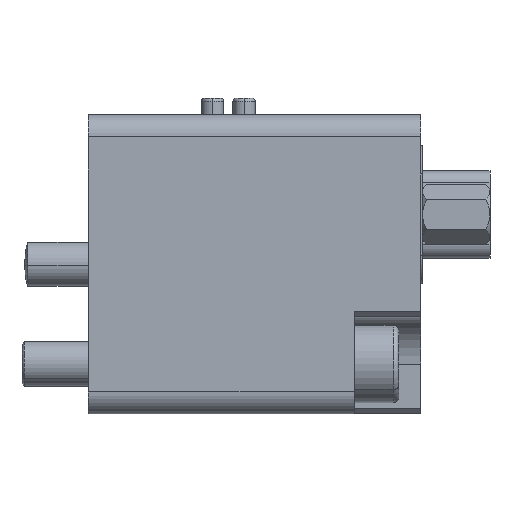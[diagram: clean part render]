
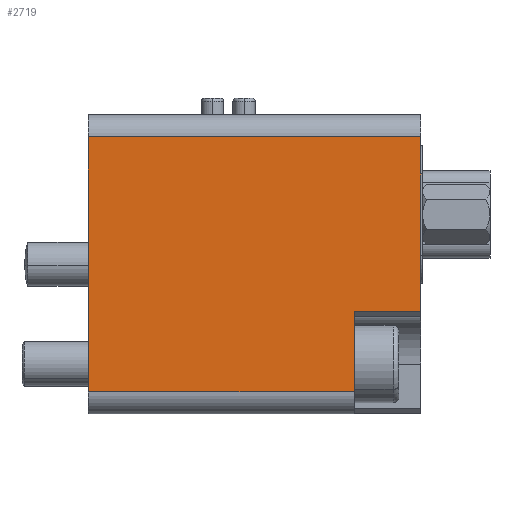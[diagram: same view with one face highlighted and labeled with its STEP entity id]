
A CAD part, left-side view. The second image highlights one B-rep face of the part: STEP entity #2719.
In plain terms, the highlighted planar face has unit normal (-1, 0, 0).
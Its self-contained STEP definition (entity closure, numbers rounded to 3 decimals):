
#139 = ORIENTED_EDGE ( 'NONE', *, *, #3262, .T. ) ;
#209 = DIRECTION ( 'NONE',  ( 0., -1., 0. ) ) ;
#221 = CARTESIAN_POINT ( 'NONE',  ( -30., 15., -3.5 ) ) ;
#458 = DIRECTION ( 'NONE',  ( 0., -1., 0. ) ) ;
#502 = CARTESIAN_POINT ( 'NONE',  ( -30., -9., -19.25 ) ) ;
#657 = CARTESIAN_POINT ( 'NONE',  ( -30., 15., -28.5 ) ) ;
#677 = CARTESIAN_POINT ( 'NONE',  ( -30., -15., -19.25 ) ) ;
#1598 = EDGE_CURVE ( 'NONE', #2379, #9841, #10974, .T. ) ;
#1863 = LINE ( 'NONE', #7122, #12011 ) ;
#2379 = VERTEX_POINT ( 'NONE', #502 ) ;
#2460 = LINE ( 'NONE', #8546, #12628 ) ;
#2719 = ADVANCED_FACE ( 'NONE', ( #10016 ), #4080, .T. ) ;
#3262 = EDGE_CURVE ( 'NONE', #10940, #12384, #2460, .T. ) ;
#3281 = EDGE_CURVE ( 'NONE', #9841, #5863, #1863, .T. ) ;
#3490 = CARTESIAN_POINT ( 'NONE',  ( -30., -9., -19.75 ) ) ;
#3629 = CARTESIAN_POINT ( 'NONE',  ( -30., 8., -3.5 ) ) ;
#4080 = PLANE ( 'NONE',  #9042 ) ;
#4156 = VECTOR ( 'NONE', #4515, 1000. ) ;
#4448 = DIRECTION ( 'NONE',  ( 0., 0., -1. ) ) ;
#4515 = DIRECTION ( 'NONE',  ( 0., 0., 1. ) ) ;
#4529 = CARTESIAN_POINT ( 'NONE',  ( -30., 8., -17. ) ) ;
#5650 = ORIENTED_EDGE ( 'NONE', *, *, #9299, .F. ) ;
#5863 = VERTEX_POINT ( 'NONE', #8385 ) ;
#5918 = VECTOR ( 'NONE', #4448, 1000. ) ;
#7122 = CARTESIAN_POINT ( 'NONE',  ( -30., -15., -17. ) ) ;
#7198 = VECTOR ( 'NONE', #9579, 1000. ) ;
#7332 = EDGE_CURVE ( 'NONE', #5863, #9908, #10445, .T. ) ;
#7686 = ORIENTED_EDGE ( 'NONE', *, *, #3281, .T. ) ;
#8041 = VECTOR ( 'NONE', #458, 1000. ) ;
#8385 = CARTESIAN_POINT ( 'NONE',  ( -30., -15., -3.5 ) ) ;
#8507 = CARTESIAN_POINT ( 'NONE',  ( -30., -9., -26.5 ) ) ;
#8546 = CARTESIAN_POINT ( 'NONE',  ( -30., -9., -26.5 ) ) ;
#8553 = ORIENTED_EDGE ( 'NONE', *, *, #1598, .T. ) ;
#8886 = LINE ( 'NONE', #3490, #5918 ) ;
#8991 = ORIENTED_EDGE ( 'NONE', *, *, #11382, .F. ) ;
#9042 = AXIS2_PLACEMENT_3D ( 'NONE', #4529, #11479, #12179 ) ;
#9299 = EDGE_CURVE ( 'NONE', #2379, #12384, #8886, .T. ) ;
#9449 = LINE ( 'NONE', #657, #4156 ) ;
#9579 = DIRECTION ( 'NONE',  ( 0., 1., 0. ) ) ;
#9841 = VERTEX_POINT ( 'NONE', #10951 ) ;
#9908 = VERTEX_POINT ( 'NONE', #221 ) ;
#10016 = FACE_OUTER_BOUND ( 'NONE', #12395, .T. ) ;
#10445 = LINE ( 'NONE', #3629, #7198 ) ;
#10709 = CARTESIAN_POINT ( 'NONE',  ( -30., 15., -26.5 ) ) ;
#10940 = VERTEX_POINT ( 'NONE', #10709 ) ;
#10951 = CARTESIAN_POINT ( 'NONE',  ( -30., -15., -19.25 ) ) ;
#10974 = LINE ( 'NONE', #677, #8041 ) ;
#11090 = DIRECTION ( 'NONE',  ( 0., 0., 1. ) ) ;
#11382 = EDGE_CURVE ( 'NONE', #10940, #9908, #9449, .T. ) ;
#11479 = DIRECTION ( 'NONE',  ( -1., 0., 0. ) ) ;
#11751 = ORIENTED_EDGE ( 'NONE', *, *, #7332, .T. ) ;
#12011 = VECTOR ( 'NONE', #11090, 1000. ) ;
#12179 = DIRECTION ( 'NONE',  ( 0., -1., 0. ) ) ;
#12384 = VERTEX_POINT ( 'NONE', #8507 ) ;
#12395 = EDGE_LOOP ( 'NONE', ( #8553, #7686, #11751, #8991, #139, #5650 ) ) ;
#12628 = VECTOR ( 'NONE', #209, 1000. ) ;
